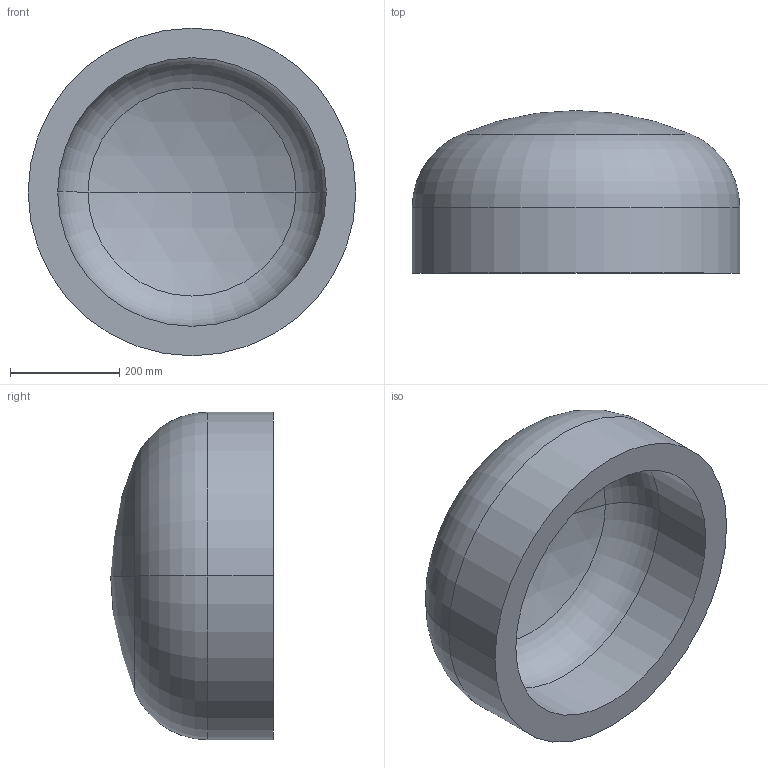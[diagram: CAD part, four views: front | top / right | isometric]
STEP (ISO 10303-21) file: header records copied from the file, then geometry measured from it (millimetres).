
FILE_DESCRIPTION (( 'STEP AP203' ), '1' );
FILE_NAME ('DIN 28013 Korbbogenform_-_Boden DIN 28013 - 600 x 120 - I - s=54.step', '2016-07-01T08:01:45', ( '' ), ( '' ), 'SwSTEP 2.0', 'SolidWorks 2013', '' );
FILE_SCHEMA (( 'CONFIG_CONTROL_DESIGN' ));
Length unit declared in the file: millimetre
Products named in the file (1): DIN 28013 Korbbogenform_-_Boden DIN 28013 - 600 x 120 - I - s=54
Bounding box: 600 x 297.87 x 600 mm (x, y, z)
Volume: 30000832 mm3; surface area: 1209875.8 mm2
Topology: 1 solids, 1 shells, 13 faces, 24 edges, 14 vertices
Faces by surface type: torus 4, cylinder 4, sphere 4, plane 1
Entity records: 407 total; most frequent: DIRECTION 72, CARTESIAN_POINT 52, ORIENTED_EDGE 48, AXIS2_PLACEMENT_3D 34, EDGE_CURVE 24, CIRCLE 20, EDGE_LOOP 14, VERTEX_POINT 14
